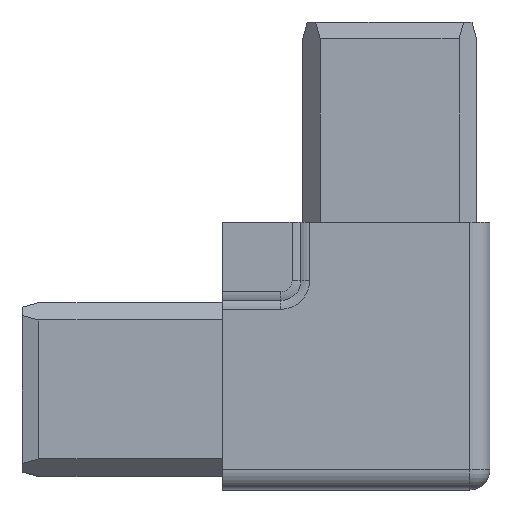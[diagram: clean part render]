
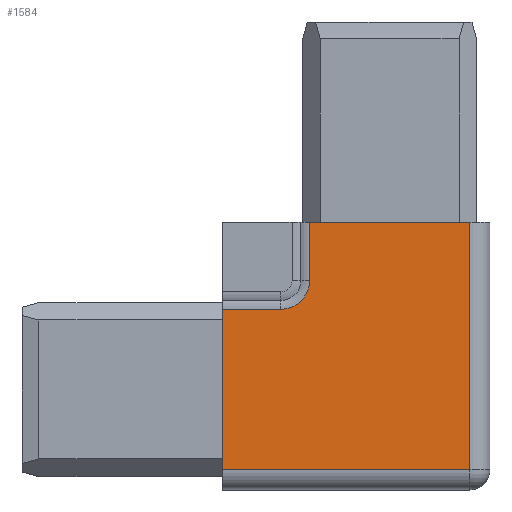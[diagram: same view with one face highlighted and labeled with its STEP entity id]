
A CAD part, top view. The second image highlights one B-rep face of the part: STEP entity #1584.
In plain terms, the highlighted planar face has unit normal (0, 0, 1).
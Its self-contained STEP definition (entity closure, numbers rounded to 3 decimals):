
#106 = DIRECTION ( 'NONE',  ( -1., 0., 0. ) ) ;
#145 = VERTEX_POINT ( 'NONE', #1434 ) ;
#153 = AXIS2_PLACEMENT_3D ( 'NONE', #1593, #2557, #3053 ) ;
#154 = LINE ( 'NONE', #1764, #1619 ) ;
#163 = LINE ( 'NONE', #1372, #1559 ) ;
#230 = VERTEX_POINT ( 'NONE', #2468 ) ;
#307 = ORIENTED_EDGE ( 'NONE', *, *, #943, .F. ) ;
#331 = EDGE_CURVE ( 'NONE', #145, #1493, #1322, .T. ) ;
#359 = DIRECTION ( 'NONE',  ( 1., 0., 0. ) ) ;
#374 = CARTESIAN_POINT ( 'NONE',  ( 15., -15., 15. ) ) ;
#445 = CARTESIAN_POINT ( 'NONE',  ( -16.3, 11.99, 15. ) ) ;
#582 = CARTESIAN_POINT ( 'NONE',  ( -11.99, 16.3, 15. ) ) ;
#589 = CARTESIAN_POINT ( 'NONE',  ( -11.99, 16.3, 15. ) ) ;
#639 = CIRCLE ( 'NONE', #153, 4.31 ) ;
#646 = VECTOR ( 'NONE', #1529, 1000. ) ;
#857 = FACE_OUTER_BOUND ( 'NONE', #1728, .T. ) ;
#943 = EDGE_CURVE ( 'NONE', #1929, #2818, #2708, .T. ) ;
#988 = ORIENTED_EDGE ( 'NONE', *, *, #1678, .F. ) ;
#1145 = CARTESIAN_POINT ( 'NONE',  ( 15., -12., 15. ) ) ;
#1322 = LINE ( 'NONE', #1145, #1714 ) ;
#1372 = CARTESIAN_POINT ( 'NONE',  ( -25., -15., 15. ) ) ;
#1403 = ORIENTED_EDGE ( 'NONE', *, *, #1640, .T. ) ;
#1434 = CARTESIAN_POINT ( 'NONE',  ( -25., -12., 15. ) ) ;
#1493 = VERTEX_POINT ( 'NONE', #2900 ) ;
#1518 = DIRECTION ( 'NONE',  ( 0., 1., 0. ) ) ;
#1529 = DIRECTION ( 'NONE',  ( 0., 1., 0. ) ) ;
#1559 = VECTOR ( 'NONE', #1604, 1000. ) ;
#1584 = ADVANCED_FACE ( 'NONE', ( #857 ), #1746, .T. ) ;
#1593 = CARTESIAN_POINT ( 'NONE',  ( -16.3, 16.3, 15. ) ) ;
#1604 = DIRECTION ( 'NONE',  ( 0., -1., 0. ) ) ;
#1606 = LINE ( 'NONE', #2544, #3017 ) ;
#1619 = VECTOR ( 'NONE', #1518, 1000. ) ;
#1640 = EDGE_CURVE ( 'NONE', #2206, #3001, #2277, .T. ) ;
#1678 = EDGE_CURVE ( 'NONE', #2206, #1929, #639, .T. ) ;
#1709 = CARTESIAN_POINT ( 'NONE',  ( -25., 11.99, 15. ) ) ;
#1714 = VECTOR ( 'NONE', #2516, 1000. ) ;
#1728 = EDGE_LOOP ( 'NONE', ( #2991, #2906, #2457, #2649, #307, #988, #1403 ) ) ;
#1746 = PLANE ( 'NONE',  #2415 ) ;
#1752 = EDGE_CURVE ( 'NONE', #230, #2818, #1606, .T. ) ;
#1764 = CARTESIAN_POINT ( 'NONE',  ( 12., 25., 15. ) ) ;
#1796 = DIRECTION ( 'NONE',  ( 0., 0., 1. ) ) ;
#1929 = VERTEX_POINT ( 'NONE', #589 ) ;
#1959 = EDGE_CURVE ( 'NONE', #3001, #145, #163, .T. ) ;
#1992 = CARTESIAN_POINT ( 'NONE',  ( -11.99, 25., 15. ) ) ;
#2206 = VERTEX_POINT ( 'NONE', #445 ) ;
#2211 = CARTESIAN_POINT ( 'NONE',  ( -16.3, 11.99, 15. ) ) ;
#2277 = LINE ( 'NONE', #2211, #2618 ) ;
#2415 = AXIS2_PLACEMENT_3D ( 'NONE', #374, #1796, #359 ) ;
#2457 = ORIENTED_EDGE ( 'NONE', *, *, #2651, .T. ) ;
#2468 = CARTESIAN_POINT ( 'NONE',  ( 12., 25., 15. ) ) ;
#2516 = DIRECTION ( 'NONE',  ( 1., 0., 0. ) ) ;
#2544 = CARTESIAN_POINT ( 'NONE',  ( 15., 25., 15. ) ) ;
#2557 = DIRECTION ( 'NONE',  ( 0., 0., 1. ) ) ;
#2618 = VECTOR ( 'NONE', #106, 1000. ) ;
#2649 = ORIENTED_EDGE ( 'NONE', *, *, #1752, .T. ) ;
#2651 = EDGE_CURVE ( 'NONE', #1493, #230, #154, .T. ) ;
#2708 = LINE ( 'NONE', #582, #646 ) ;
#2818 = VERTEX_POINT ( 'NONE', #1992 ) ;
#2900 = CARTESIAN_POINT ( 'NONE',  ( 12., -12., 15. ) ) ;
#2906 = ORIENTED_EDGE ( 'NONE', *, *, #331, .T. ) ;
#2991 = ORIENTED_EDGE ( 'NONE', *, *, #1959, .T. ) ;
#3001 = VERTEX_POINT ( 'NONE', #1709 ) ;
#3008 = DIRECTION ( 'NONE',  ( -1., 0., 0. ) ) ;
#3017 = VECTOR ( 'NONE', #3008, 1000. ) ;
#3053 = DIRECTION ( 'NONE',  ( 1., 0., 0. ) ) ;
